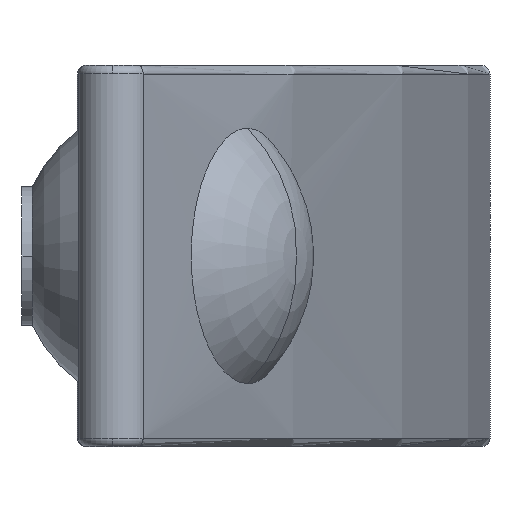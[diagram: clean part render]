
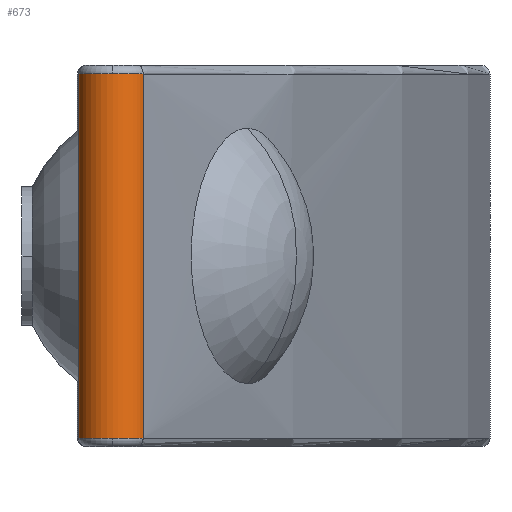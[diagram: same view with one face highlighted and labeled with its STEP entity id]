
A CAD part, left-side view. The second image highlights one B-rep face of the part: STEP entity #673.
In plain terms, the highlighted cylindrical face has radius 2 mm (diameter 4 mm), a partial arc.
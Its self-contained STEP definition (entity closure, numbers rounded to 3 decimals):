
#351 = VERTEX_POINT( '', #911 );
#365 = EDGE_CURVE( '', #531, #515, #926, .T. );
#449 = EDGE_CURVE( '', #351, #515, #1020, .T. );
#513 = VERTEX_POINT( '', #1088 );
#515 = VERTEX_POINT( '', #1090 );
#531 = VERTEX_POINT( '', #1108 );
#555 = VERTEX_POINT( '', #1138 );
#557 = EDGE_CURVE( '', #653, #555, #1140, .T. );
#593 = EDGE_CURVE( '', #513, #351, #1181, .T. );
#637 = EDGE_CURVE( '', #513, #653, #1228, .T. );
#653 = VERTEX_POINT( '', #1244 );
#673 = ADVANCED_FACE( '', ( #1264 ), #1265, .T. );
#759 = EDGE_CURVE( '', #555, #531, #1363, .T. );
#911 = CARTESIAN_POINT( '', ( -13.984, -5.236, 10.51 ) );
#926 = LINE( '', #1602, #1603 );
#1020 = CIRCLE( '', #1739, 2. );
#1088 = CARTESIAN_POINT( '', ( -11.01, -3.489, 10.51 ) );
#1090 = CARTESIAN_POINT( '', ( -12.958, -6.982, 10.51 ) );
#1108 = CARTESIAN_POINT( '', ( -12.958, -6.982, -10.51 ) );
#1138 = CARTESIAN_POINT( '', ( -13.984, -5.236, -10.51 ) );
#1140 = CIRCLE( '', #1974, 2. );
#1181 = CIRCLE( '', #2053, 2. );
#1228 = LINE( '', #2191, #2192 );
#1244 = CARTESIAN_POINT( '', ( -11.01, -3.489, -10.51 ) );
#1264 = FACE_OUTER_BOUND( '', #2273, .T. );
#1265 = CYLINDRICAL_SURFACE( '', #2274, 2. );
#1363 = CIRCLE( '', #2446, 2. );
#1602 = CARTESIAN_POINT( '', ( -12.958, -6.982, 0. ) );
#1603 = VECTOR( '', #2776, 1. );
#1739 = AXIS2_PLACEMENT_3D( '', #2904, #2905, #2906 );
#1974 = AXIS2_PLACEMENT_3D( '', #3062, #3063, #3064 );
#2053 = AXIS2_PLACEMENT_3D( '', #3123, #3124, #3125 );
#2191 = CARTESIAN_POINT( '', ( -11.01, -3.489, 0. ) );
#2192 = VECTOR( '', #3170, 1. );
#2273 = EDGE_LOOP( '', ( #3197, #3198, #3199, #3200, #3201, #3202 ) );
#2274 = AXIS2_PLACEMENT_3D( '', #3203, #3204, #3205 );
#2446 = AXIS2_PLACEMENT_3D( '', #3332, #3333, #3334 );
#2776 = DIRECTION( '', ( 0., 0., 1. ) );
#2904 = CARTESIAN_POINT( '', ( -11.984, -5.236, 10.51 ) );
#2905 = DIRECTION( '', ( 0., 0., 1. ) );
#2906 = DIRECTION( '', ( -0.487, -0.873, 0. ) );
#3062 = CARTESIAN_POINT( '', ( -11.984, -5.236, -10.51 ) );
#3063 = DIRECTION( '', ( 0., 0., 1. ) );
#3064 = DIRECTION( '', ( -0.487, -0.873, 0. ) );
#3123 = CARTESIAN_POINT( '', ( -11.984, -5.236, 10.51 ) );
#3124 = DIRECTION( '', ( 0., 0., 1. ) );
#3125 = DIRECTION( '', ( -0.487, -0.873, 0. ) );
#3170 = DIRECTION( '', ( 0., 0., -1. ) );
#3197 = ORIENTED_EDGE( '', *, *, #365, .T. );
#3198 = ORIENTED_EDGE( '', *, *, #449, .F. );
#3199 = ORIENTED_EDGE( '', *, *, #593, .F. );
#3200 = ORIENTED_EDGE( '', *, *, #637, .T. );
#3201 = ORIENTED_EDGE( '', *, *, #557, .T. );
#3202 = ORIENTED_EDGE( '', *, *, #759, .T. );
#3203 = CARTESIAN_POINT( '', ( -11.984, -5.236, 0. ) );
#3204 = DIRECTION( '', ( 0., 0., -1. ) );
#3205 = DIRECTION( '', ( -0.487, -0.873, 0. ) );
#3332 = CARTESIAN_POINT( '', ( -11.984, -5.236, -10.51 ) );
#3333 = DIRECTION( '', ( 0., 0., 1. ) );
#3334 = DIRECTION( '', ( -0.487, -0.873, 0. ) );
